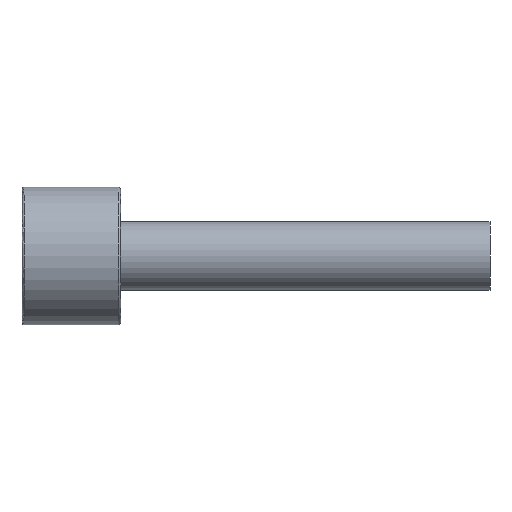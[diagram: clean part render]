
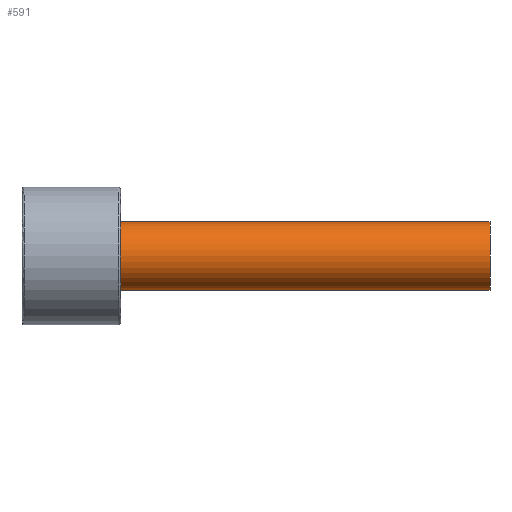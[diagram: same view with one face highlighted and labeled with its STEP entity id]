
A CAD part, front view. The second image highlights one B-rep face of the part: STEP entity #591.
In plain terms, the highlighted cylindrical face has radius 7 mm (diameter 14 mm), a partial arc.
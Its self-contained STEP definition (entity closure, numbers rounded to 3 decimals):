
#425=CARTESIAN_POINT('Vertex',(95.,0.,7.)) ;
#428=CARTESIAN_POINT('Axis2P3D Location',(95.,0.,0.)) ;
#432=CARTESIAN_POINT('Vertex',(95.,-7.,0.)) ;
#435=CARTESIAN_POINT('Axis2P3D Location',(95.,0.,0.)) ;
#439=CARTESIAN_POINT('Vertex',(95.,0.,-7.)) ;
#531=CARTESIAN_POINT('Line Origine',(95.,0.,7.)) ;
#535=CARTESIAN_POINT('Vertex',(20.,0.,7.)) ;
#538=CARTESIAN_POINT('Line Origine',(95.,0.,-7.)) ;
#542=CARTESIAN_POINT('Vertex',(20.,0.,-7.)) ;
#566=CARTESIAN_POINT('Axis2P3D Location',(95.,0.,0.)) ;
#571=CARTESIAN_POINT('Axis2P3D Location',(20.,0.,0.)) ;
#575=CARTESIAN_POINT('Vertex',(20.,-7.,0.)) ;
#578=CARTESIAN_POINT('Axis2P3D Location',(20.,0.,0.)) ;
#429=DIRECTION('Axis2P3D Direction',(1.,0.,-0.)) ;
#436=DIRECTION('Axis2P3D Direction',(1.,0.,-0.)) ;
#532=DIRECTION('Vector Direction',(-1.,0.,0.)) ;
#539=DIRECTION('Vector Direction',(-1.,0.,0.)) ;
#567=DIRECTION('Axis2P3D Direction',(-1.,-0.,-0.)) ;
#568=DIRECTION('Axis2P3D XDirection',(0.,0.,-1.)) ;
#572=DIRECTION('Axis2P3D Direction',(-1.,-0.,-0.)) ;
#579=DIRECTION('Axis2P3D Direction',(-1.,-0.,-0.)) ;
#430=AXIS2_PLACEMENT_3D('Circle Axis2P3D',#428,#429,$) ;
#437=AXIS2_PLACEMENT_3D('Circle Axis2P3D',#435,#436,$) ;
#569=AXIS2_PLACEMENT_3D('Cylinder Axis2P3D',#566,#567,#568) ;
#573=AXIS2_PLACEMENT_3D('Circle Axis2P3D',#571,#572,$) ;
#580=AXIS2_PLACEMENT_3D('Circle Axis2P3D',#578,#579,$) ;
#584=ORIENTED_EDGE('',*,*,#544,.T.) ;
#585=ORIENTED_EDGE('',*,*,#441,.F.) ;
#586=ORIENTED_EDGE('',*,*,#434,.F.) ;
#587=ORIENTED_EDGE('',*,*,#537,.T.) ;
#588=ORIENTED_EDGE('',*,*,#577,.T.) ;
#589=ORIENTED_EDGE('',*,*,#582,.T.) ;
#533=VECTOR('Line Direction',#532,1.) ;
#540=VECTOR('Line Direction',#539,1.) ;
#591=ADVANCED_FACE('367-14X95',(#590),#570,.T.) ;
#431=CIRCLE('generated circle',#430,7.) ;
#438=CIRCLE('generated circle',#437,7.) ;
#574=CIRCLE('generated circle',#573,7.) ;
#581=CIRCLE('generated circle',#580,7.) ;
#570=CYLINDRICAL_SURFACE('generated cylinder',#569,7.) ;
#434=EDGE_CURVE('',#426,#433,#431,.T.) ;
#441=EDGE_CURVE('',#433,#440,#438,.T.) ;
#537=EDGE_CURVE('',#426,#536,#534,.T.) ;
#544=EDGE_CURVE('',#543,#440,#541,.F.) ;
#577=EDGE_CURVE('',#536,#576,#574,.F.) ;
#582=EDGE_CURVE('',#576,#543,#581,.F.) ;
#583=EDGE_LOOP('',(#584,#585,#586,#587,#588,#589)) ;
#590=FACE_OUTER_BOUND('',#583,.T.) ;
#534=LINE('Line',#531,#533) ;
#541=LINE('Line',#538,#540) ;
#426=VERTEX_POINT('',#425) ;
#433=VERTEX_POINT('',#432) ;
#440=VERTEX_POINT('',#439) ;
#536=VERTEX_POINT('',#535) ;
#543=VERTEX_POINT('',#542) ;
#576=VERTEX_POINT('',#575) ;
